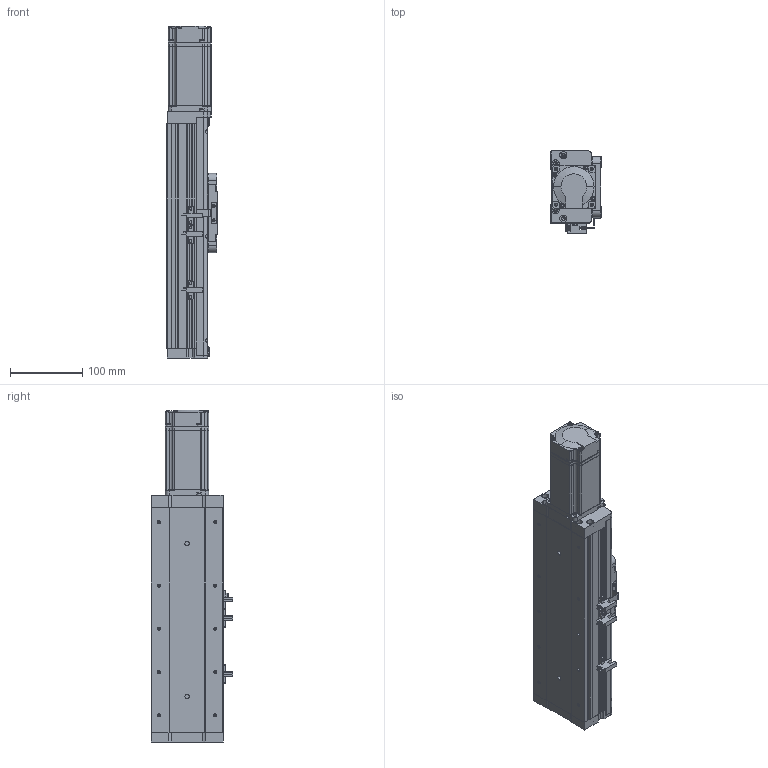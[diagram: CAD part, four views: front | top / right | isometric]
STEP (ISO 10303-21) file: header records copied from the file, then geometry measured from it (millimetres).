
FILE_DESCRIPTION (( 'STEP AP203' ), '1' );
FILE_NAME ('KSD100S-S100-MN-CR.STEP', '2019-09-02T08:40:50', ( '微软用户' ), ( '微软中国' ), 'SwSTEP 2.0', 'SolidWorks 2014', '' );
FILE_SCHEMA (( 'CONFIG_CONTROL_DESIGN' ));
Length unit declared in the file: millimetre
Products named in the file (12): MHMD042G1CA_2_03; 100宽盖板100行程不带电机座; KSD100S-S100-MN-CR; 100宽盖板压板不带电机座; 100宽滚珠螺姆安装板1; 100宽滚珠螺姆安装板1防护罩; 100宽端板全封闭; 100宽马达安装板全封闭不带电机座; 感应片100宽全封闭; 100宽底板全封闭100行程不带电机座; U倰嫖萇EEㄜSX672; 100宽侧板100行程不带电机座
Assembly tree (15 placements, depth 2):
  KSD100S-S100-MN-CR
    100宽底板全封闭100行程不带电机座
    100宽侧板100行程不带电机座  x2
    100宽盖板100行程不带电机座
    100宽盖板压板不带电机座  x2
    100宽滚珠螺姆安装板1
    100宽滚珠螺姆安装板1防护罩
    100宽端板全封闭
    100宽马达安装板全封闭不带电机座
    感应片100宽全封闭
    U倰嫖萇EEㄜSX672  x3
    MHMD042G1CA_2_03
Bounding box: 70 x 113.7 x 460.5 mm (x, y, z)
Volume: 786764.7 mm3; surface area: 369913.2 mm2
Topology: 14 solids, 15 shells, 1396 faces, 3914 edges, 2530 vertices
Faces by surface type: plane 652, cylinder 565, cone 161, bspline 18
Entity records: 38803 total; most frequent: CARTESIAN_POINT 7343, DIRECTION 6483, ORIENTED_EDGE 6080, EDGE_CURVE 3112, AXIS2_PLACEMENT_3D 2270, VERTEX_POINT 2068, LINE 1943, VECTOR 1943
